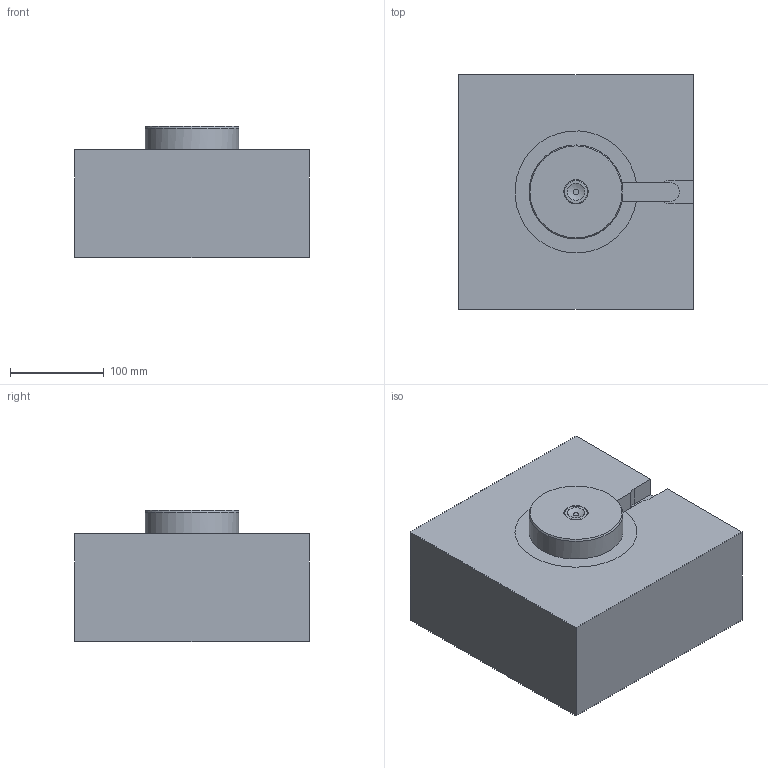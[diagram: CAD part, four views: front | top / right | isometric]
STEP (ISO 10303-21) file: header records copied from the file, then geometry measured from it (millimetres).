
FILE_DESCRIPTION( ( 'STEP AP214' ), '1' );
FILE_NAME( 'D:/PROIECTE_YUDO_2009/PROIECTE YUDO 3D/BLS/YUEU09-BLS18TLC070/BLS18TLC070.step', '2009-03-12T06:15:00', ( ' ' ), ( ' ' ), 'XStep 1.0', ' ', ' ' );
FILE_SCHEMA( ( 'automotive_design' ) );
Length unit declared in the file: millimetre
Products named in the file (4): 1; 2; 3; 4
Bounding box: 250 x 250 x 140 mm (x, y, z)
Volume: 7272728.6 mm3; surface area: 323496.8 mm2
Topology: 4 solids, 4 shells, 89 faces, 182 edges, 113 vertices
Faces by surface type: plane 37, cylinder 29, cone 17, torus 4, bspline 2
Full cylindrical faces by diameter (mm): 8 x2, 8.8 x1, 12 x1, 12.8 x1, 14 x1, 18 x1, 18.08 x1, 21.134 x1, 22.9 x1, 25 x3, 27.2 x1, 32 x1, 33 x1, 37 x1, 40 x1, 53 x1, 54 x2, 100 x1
Entity records: 2913 total; most frequent: CARTESIAN_POINT 396, DIRECTION 394, ORIENTED_EDGE 268, AXIS2_PLACEMENT_3D 171, EDGE_LOOP 151, EDGE_CURVE 134, FACE_OUTER_BOUND 117, VERTEX_POINT 109
